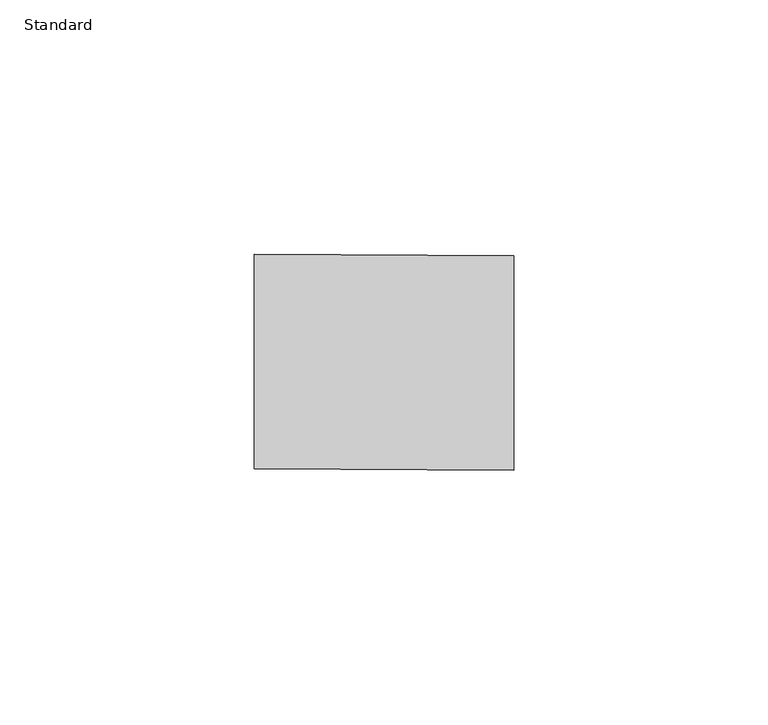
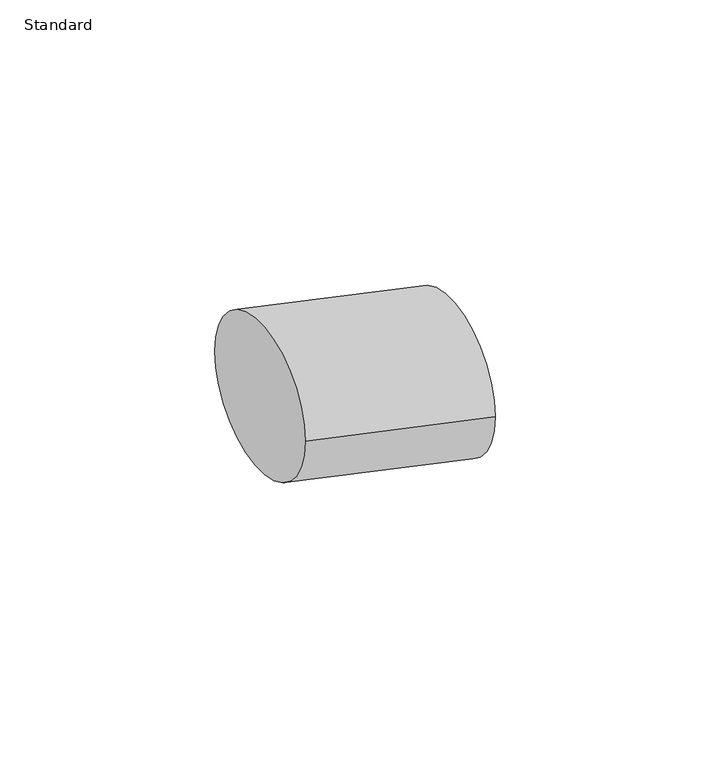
"""IFC4 building model written with IfcOpenShell, lengths in millimetres: pipe fitting geometry, Transformation - Générique : Standard."""

from ifc_helpers import new_model, si_unit, point, frame, origin, place, context, project, spatial, circle_curve, trimmed, source, transform, mapped, element, save
from ifc_brep_helpers import plane_surface, extruded_surface, advanced_brep


def standard_da27b0df(model_context):
    return source(origin(), model_context, "Body", "AdvancedBrep", [
        advanced_brep(
        [(51.0, -21.3485137, -10.7691821), (51.0, 20.8514863, -10.7691821), (0.0, -21.1, 0.0), (0.0, 21.1, 0.0)],
        [
            (0, 1, circle_curve(frame((51.0, -0.2485137, -10.7691821), z_axis=(1.0, 0.0, 0.0), x_axis=(0.0, 1.0, 0.0)), 21.1)),
            (1, 0, circle_curve(frame((51.0, -0.2485137, -10.7691821), z_axis=(1.0, 0.0, 0.0), x_axis=(0.0, 1.0, 0.0)), 21.1)),
            (2, 3, circle_curve(frame((0.0, 0.0, 0.0), z_axis=(-1.0, 0.0, 0.0), x_axis=(0.0, 1.0, 0.0)), 21.1)),
            (3, 2, circle_curve(frame((0.0, 0.0, 0.0), z_axis=(-1.0, 0.0, 0.0), x_axis=(0.0, 1.0, 0.0)), 21.1)),
            (3, 1),
            (0, 2),
        ],
        [
            plane_surface(frame((51.0, -0.2485137, -10.7691821), z_axis=(1.0, 0.0, 0.0), x_axis=(0.0, 0.0, -1.0))),
            plane_surface(frame((0.0, 0.0, 0.0), z_axis=(-1.0, 0.0, 0.0), x_axis=(0.0, 0.0, -1.0))),
            extruded_surface(trimmed(circle_curve(frame((0.0, 0.0, 0.0), z_axis=(1.0, 0.0, 0.0), x_axis=(0.0, 1.0, 0.0)), 21.1), [point((0.0, -21.1, 0.0))], [point((0.0, 21.1, 0.0))], True, "CARTESIAN"), (51.0, -0.2485137, -10.7691821), 52.12520543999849),
            extruded_surface(trimmed(circle_curve(frame((0.0, 0.0, 0.0), z_axis=(1.0, 0.0, 0.0), x_axis=(0.0, 1.0, 0.0)), 21.1), [point((0.0, 21.1, 0.0))], [point((0.0, -21.1, 0.0))], True, "CARTESIAN"), (51.0, -0.2485137, -10.7691821), 52.12520543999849),
        ],
        [
            (0, [[1, 2]]),
            (1, [[3, 4]]),
            (2, [[-4, 5, -1, 6]]),
            (3, [[-3, -6, -2, -5]]),
        ],
    ),
    ])


if __name__ == "__main__":
    model = new_model("IFC4")
    model_context = context("Model", 3, world=origin())
    ifc_project = project(units=[si_unit("LENGTHUNIT", "METRE", prefix="MILLI")], contexts=[model_context])
    site = spatial("IfcSite", under=ifc_project)
    building = spatial("IfcBuilding", under=site)
    placement = place(None, origin())
    standard_shape = standard_da27b0df(model_context)
    element("IfcPipeFitting", 1, ObjectType="Transformation - Générique : Standard", at=placement, inside=building, context=model_context, shape_type="MappedRepresentation", body=[
        mapped(standard_shape, transform((0.0, 0.0, 0.0), x_axis=(1.0, 0.0, 0.0), y_axis=(0.0, 1.0, 0.0), z_axis=(0.0, 0.0, 1.0))),
    ])
    save(model, "model.ifc")
